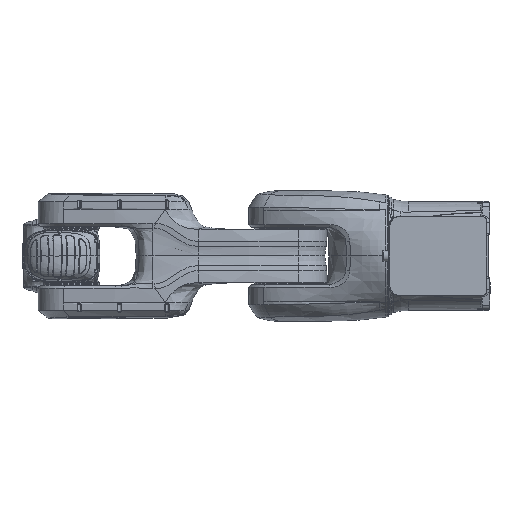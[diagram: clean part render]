
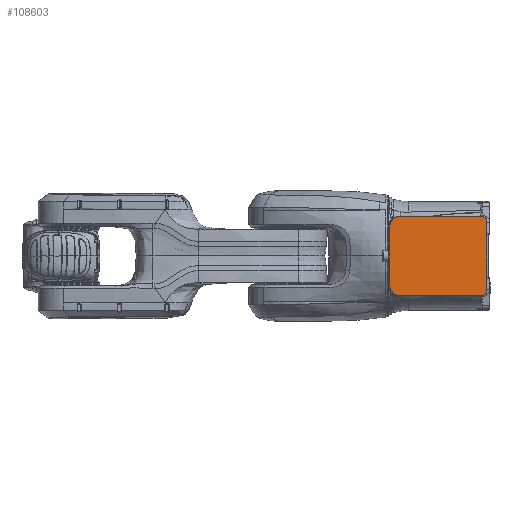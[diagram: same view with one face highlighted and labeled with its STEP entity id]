
A CAD part, left-side view. The second image highlights one B-rep face of the part: STEP entity #108603.
In plain terms, the highlighted planar face has unit normal (-1, 0, 0).
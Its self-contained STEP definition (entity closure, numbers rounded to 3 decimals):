
#1550 = DIRECTION ( 'NONE',  ( 0., 0., 1. ) ) ;
#2875 = ORIENTED_EDGE ( 'NONE', *, *, #282653, .F. ) ;
#3266 = ORIENTED_EDGE ( 'NONE', *, *, #53427, .F. ) ;
#3855 = CARTESIAN_POINT ( 'NONE',  ( -165., 174.309, -77.5 ) ) ;
#5270 = CARTESIAN_POINT ( 'NONE',  ( -165., 3., 77.5 ) ) ;
#9037 = CARTESIAN_POINT ( 'NONE',  ( -165., 189.785, 68.608 ) ) ;
#18607 = DIRECTION ( 'NONE',  ( 0., 0., 1. ) ) ;
#21808 = DIRECTION ( 'NONE',  ( 0., -1., 0. ) ) ;
#22378 = CARTESIAN_POINT ( 'NONE',  ( -165., 173., -77.5 ) ) ;
#24724 = VERTEX_POINT ( 'NONE', #219037 ) ;
#29288 = DIRECTION ( 'NONE',  ( 1., 0., 0. ) ) ;
#32198 = CARTESIAN_POINT ( 'NONE',  ( -165., 179.445, -76.479 ) ) ;
#39091 = CIRCLE ( 'NONE', #266023, 10. ) ;
#39181 = CARTESIAN_POINT ( 'NONE',  ( -165., 177.342, 77.102 ) ) ;
#46637 = CARTESIAN_POINT ( 'NONE',  ( -165., 190.977, -66.363 ) ) ;
#48643 = ORIENTED_EDGE ( 'NONE', *, *, #149062, .F. ) ;
#50668 = CARTESIAN_POINT ( 'NONE',  ( -165., 13., -77.5 ) ) ;
#53427 = EDGE_CURVE ( 'NONE', #261865, #222795, #180308, .T. ) ;
#54571 = VECTOR ( 'NONE', #207115, 1000. ) ;
#60611 = CARTESIAN_POINT ( 'NONE',  ( -165., 181.863, -75.477 ) ) ;
#62309 = CARTESIAN_POINT ( 'NONE',  ( -165., 192.981, 58.547 ) ) ;
#63021 = ORIENTED_EDGE ( 'NONE', *, *, #231688, .F. ) ;
#74354 = CARTESIAN_POINT ( 'NONE',  ( -165., 13., 67.5 ) ) ;
#75013 = CARTESIAN_POINT ( 'NONE',  ( -165., 192.872, -60.109 ) ) ;
#91459 = EDGE_CURVE ( 'NONE', #24724, #222795, #321172, .T. ) ;
#93469 = LINE ( 'NONE', #312001, #54571 ) ;
#105606 = CARTESIAN_POINT ( 'NONE',  ( -165., 3., 67.5 ) ) ;
#106435 = CARTESIAN_POINT ( 'NONE',  ( -165., 3., -67.5 ) ) ;
#106855 = CARTESIAN_POINT ( 'NONE',  ( -165., 188.068, -70.717 ) ) ;
#108603 = ADVANCED_FACE ( 'NONE', ( #350817 ), #267408, .F. ) ;
#117305 = CARTESIAN_POINT ( 'NONE',  ( -165., 187.247, 71.747 ) ) ;
#120829 = CARTESIAN_POINT ( 'NONE',  ( -165., 173., 77.5 ) ) ;
#129332 = DIRECTION ( 'NONE',  ( 0., 0., 1. ) ) ;
#129992 = CARTESIAN_POINT ( 'NONE',  ( -165., 186.217, -72.568 ) ) ;
#133481 = CARTESIAN_POINT ( 'NONE',  ( -165., 191.979, -63.944 ) ) ;
#135245 = CARTESIAN_POINT ( 'NONE',  ( -165., 192.358, -62.694 ) ) ;
#137024 = CARTESIAN_POINT ( 'NONE',  ( -165., 185.207, -73.397 ) ) ;
#137580 = DIRECTION ( 'NONE',  ( 0., 0., -1. ) ) ;
#140469 = AXIS2_PLACEMENT_3D ( 'NONE', #299306, #29288, #137580 ) ;
#142867 = CIRCLE ( 'NONE', #341505, 10. ) ;
#147537 = CARTESIAN_POINT ( 'NONE',  ( -165., 174.047, 77.482 ) ) ;
#149062 = EDGE_CURVE ( 'NONE', #308175, #261865, #142867, .T. ) ;
#159149 = VECTOR ( 'NONE', #18607, 1000. ) ;
#170670 = CARTESIAN_POINT ( 'NONE',  ( -165., 192.899, 59.592 ) ) ;
#172416 = CARTESIAN_POINT ( 'NONE',  ( -165., 184.108, 74.285 ) ) ;
#180308 = LINE ( 'NONE', #348889, #227813 ) ;
#193321 = DIRECTION ( 'NONE',  ( 1., 0., 0. ) ) ;
#195629 = CARTESIAN_POINT ( 'NONE',  ( -165., 173., -77.5 ) ) ;
#197981 = VERTEX_POINT ( 'NONE', #239663 ) ;
#199091 = CARTESIAN_POINT ( 'NONE',  ( -165., 192.602, 61.842 ) ) ;
#199534 = ORIENTED_EDGE ( 'NONE', *, *, #286432, .F. ) ;
#207115 = DIRECTION ( 'NONE',  ( 0., 0., -1. ) ) ;
#211098 = DIRECTION ( 'NONE',  ( 1., 0., 0. ) ) ;
#219037 = CARTESIAN_POINT ( 'NONE',  ( -165., 193., -57.5 ) ) ;
#222795 = VERTEX_POINT ( 'NONE', #22378 ) ;
#227456 = CARTESIAN_POINT ( 'NONE',  ( -165., 191.747, 64.887 ) ) ;
#227813 = VECTOR ( 'NONE', #237040, 1000. ) ;
#231688 = EDGE_CURVE ( 'NONE', #337592, #308175, #93469, .T. ) ;
#237040 = DIRECTION ( 'NONE',  ( 0., 1., 0. ) ) ;
#238362 = ORIENTED_EDGE ( 'NONE', *, *, #307093, .F. ) ;
#239663 = CARTESIAN_POINT ( 'NONE',  ( -165., 193., 57.5 ) ) ;
#242770 = CARTESIAN_POINT ( 'NONE',  ( -165., 13., 77.5 ) ) ;
#244887 = EDGE_CURVE ( 'NONE', #291037, #337592, #39091, .T. ) ;
#250562 = EDGE_LOOP ( 'NONE', ( #290778, #199534, #238362, #2875, #320488, #3266, #48643, #63021 ) ) ;
#255902 = CARTESIAN_POINT ( 'NONE',  ( -165., 173.349, 77.5 ) ) ;
#258926 = CARTESIAN_POINT ( 'NONE',  ( -165., 173., 77.5 ) ) ;
#259426 = CARTESIAN_POINT ( 'NONE',  ( -165., 193., 57.5 ) ) ;
#261865 = VERTEX_POINT ( 'NONE', #50668 ) ;
#266023 = AXIS2_PLACEMENT_3D ( 'NONE', #74354, #211098, #129332 ) ;
#267408 = PLANE ( 'NONE',  #140469 ) ;
#268587 = CARTESIAN_POINT ( 'NONE',  ( -165., 193., -58.809 ) ) ;
#279103 = CARTESIAN_POINT ( 'NONE',  ( -165., 183.015, -74.861 ) ) ;
#280305 = CARTESIAN_POINT ( 'NONE',  ( -165., 193., 77.5 ) ) ;
#282578 = CARTESIAN_POINT ( 'NONE',  ( -165., 193., 57.849 ) ) ;
#282653 = EDGE_CURVE ( 'NONE', #24724, #197981, #333596, .T. ) ;
#283752 = VECTOR ( 'NONE', #21808, 1000. ) ;
#286432 = EDGE_CURVE ( 'NONE', #344847, #291037, #293591, .T. ) ;
#290778 = ORIENTED_EDGE ( 'NONE', *, *, #244887, .F. ) ;
#291037 = VERTEX_POINT ( 'NONE', #242770 ) ;
#291762 = CARTESIAN_POINT ( 'NONE',  ( -165., 190.361, -67.515 ) ) ;
#293591 = LINE ( 'NONE', #5270, #283752 ) ;
#299306 = CARTESIAN_POINT ( 'NONE',  ( -165., -3., 0. ) ) ;
#300513 = CARTESIAN_POINT ( 'NONE',  ( -165., 178.194, -76.858 ) ) ;
#302265 = CARTESIAN_POINT ( 'NONE',  ( -165., 175.61, -77.371 ) ) ;
#307093 = EDGE_CURVE ( 'NONE', #197981, #344847, #313453, .T. ) ;
#308175 = VERTEX_POINT ( 'NONE', #106435 ) ;
#312001 = CARTESIAN_POINT ( 'NONE',  ( -165., 3., 0. ) ) ;
#313453 = B_SPLINE_CURVE_WITH_KNOTS ( 'NONE', 3,
 ( #259426, #282578, #62309, #170670, #199091, #227456, #9037, #117305, #172416, #335856, #39181, #337610, #147537, #255902, #120829 ),
 .UNSPECIFIED., .F., .F.,
 ( 4, 1, 1, 1, 1, 1, 1, 1, 1, 1, 1, 1, 4 ),
 ( 0., 0.033, 0.067, 0.1, 0.25, 0.367, 0.5, 0.633, 0.75, 0.9, 0.933, 0.967, 1. ),
 .UNSPECIFIED. ) ;
#320488 = ORIENTED_EDGE ( 'NONE', *, *, #91459, .T. ) ;
#321172 = B_SPLINE_CURVE_WITH_KNOTS ( 'NONE', 3,
 ( #345021, #268587, #75013, #135245, #133481, #46637, #291762, #350249, #106855, #129992, #137024, #279103, #60611, #32198, #300513, #302265, #3855, #195629 ),
 .UNSPECIFIED., .F., .F.,
 ( 4, 2, 2, 2, 2, 2, 2, 2, 4 ),
 ( 0., 0.125, 0.25, 0.375, 0.5, 0.625, 0.75, 0.875, 1. ),
 .UNSPECIFIED. ) ;
#326579 = CARTESIAN_POINT ( 'NONE',  ( -165., 13., -67.5 ) ) ;
#333596 = LINE ( 'NONE', #280305, #159149 ) ;
#335856 = CARTESIAN_POINT ( 'NONE',  ( -165., 180.387, 76.247 ) ) ;
#337592 = VERTEX_POINT ( 'NONE', #105606 ) ;
#337610 = CARTESIAN_POINT ( 'NONE',  ( -165., 175.091, 77.399 ) ) ;
#341505 = AXIS2_PLACEMENT_3D ( 'NONE', #326579, #193321, #1550 ) ;
#344847 = VERTEX_POINT ( 'NONE', #258926 ) ;
#345021 = CARTESIAN_POINT ( 'NONE',  ( -165., 193., -57.5 ) ) ;
#348889 = CARTESIAN_POINT ( 'NONE',  ( -165., -3., -77.5 ) ) ;
#350249 = CARTESIAN_POINT ( 'NONE',  ( -165., 188.897, -69.707 ) ) ;
#350817 = FACE_OUTER_BOUND ( 'NONE', #250562, .T. ) ;
